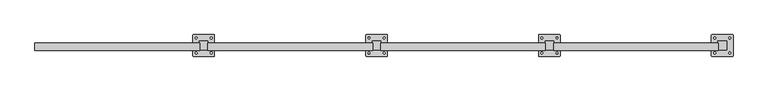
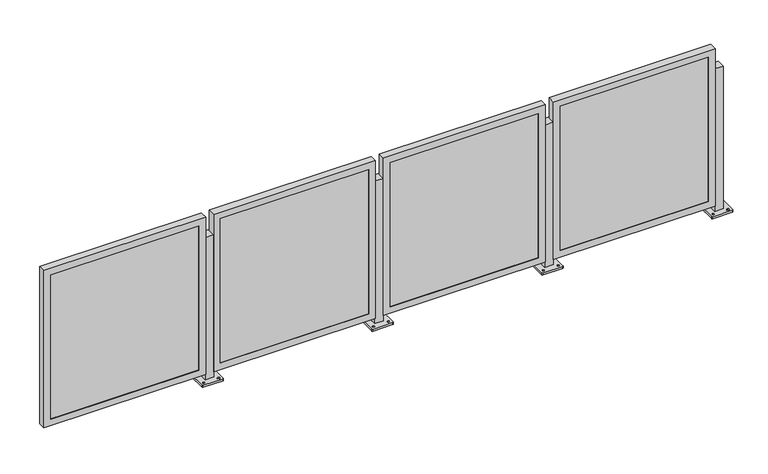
"""IFC4 building model written with IfcOpenShell, lengths in millimetres: railing geometry, Railing - Amico Architectural - Perforated Railing - Apex02."""

from ifc_helpers import new_model, si_unit, frame, origin, place, context, project, spatial, polyline, circle_curve, outline, extrude, faceted_brep, source, transform, mapped, element, save
from ifc_brep_helpers import plane_surface, cylinder_surface, revolved_surface, advanced_brep


def railing_ad05e1b3(model_context):
    return source(origin(), model_context, "Body", "SolidModel", [
        advanced_brep(
        [(-22921.3286619, -908.4679764, 914.4), (-22921.3286619, -959.2679764, 914.4), (-22870.5286619, -959.2679764, 914.4), (-22870.5286619, -908.4679764, 914.4), (-22959.428662, -994.1929354, 0.0), (-22959.428662, -873.5430174, 0.0), (-22956.2536339, -870.3679893, 0.0), (-22835.6036899, -870.3679893, 0.0), (-22832.4286617, -873.5430174, 0.0), (-22832.4286617, -994.1929354, 0.0), (-22835.6036899, -997.3679635, 0.0), (-22956.2536339, -997.3679635, 0.0), (-22940.3786494, -983.874231, 0.0), (-22940.3786494, -972.7617186, 0.0), (-22940.3786603, -894.9742267, 0.0), (-22940.3786603, -883.8617451, 0.0), (-22851.4786485, -983.8742295, 0.0), (-22851.4786485, -972.7617189, 0.0), (-22851.4786594, -894.9742251, 0.0), (-22851.4786594, -883.8617453, 0.0), (-22921.3286619, -908.4679764, 12.7), (-22921.3286619, -959.2679764, 12.7), (-22870.5286619, -959.2679764, 12.7), (-22870.5286619, -908.4679764, 12.7), (-22959.428662, -994.1929354, 12.7), (-22956.2536339, -997.3679635, 12.7), (-22835.6036899, -997.3679635, 12.7), (-22832.4286617, -994.1929354, 12.7), (-22832.4286617, -873.5430174, 12.7), (-22835.6036899, -870.3679893, 12.7), (-22956.2536339, -870.3679893, 12.7), (-22959.428662, -873.5430174, 12.7), (-22940.3786494, -983.874231, 12.7), (-22940.3786494, -972.7617186, 12.7), (-22940.3786603, -894.9742267, 12.7), (-22940.3786603, -883.8617451, 12.7), (-22851.4786485, -983.8742295, 12.7), (-22851.4786485, -972.7617189, 12.7), (-22851.4786594, -894.9742251, 12.7), (-22851.4786594, -883.8617453, 12.7)],
        [
            (0, 1),
            (1, 2),
            (2, 3),
            (3, 0),
            (4, 5),
            (5, 6, circle_curve(frame((-22956.2536339, -873.5430174, 0.0), z_axis=(0.0, 0.0, -1.0), x_axis=(0.0, 1.0, 0.0)), 3.1750282)),
            (6, 7),
            (7, 8, circle_curve(frame((-22835.6036899, -873.5430174, 0.0), z_axis=(0.0, 0.0, -1.0), x_axis=(0.0, 1.0, 0.0)), 3.1750282)),
            (8, 9),
            (9, 10, circle_curve(frame((-22835.6036899, -994.1929354, 0.0), z_axis=(0.0, 0.0, -1.0), x_axis=(0.0, 1.0, 0.0)), 3.1750282)),
            (10, 11),
            (11, 4, circle_curve(frame((-22956.2536339, -994.1929354, 0.0), z_axis=(0.0, 0.0, -1.0), x_axis=(0.0, 1.0, 0.0)), 3.1750282)),
            (12, 13, circle_curve(frame((-22940.3786494, -978.3179748, 0.0), z_axis=(0.0, 0.0, 1.0), x_axis=(0.0, 1.0, 0.0)), 5.5562562)),
            (13, 12, circle_curve(frame((-22940.3786494, -978.3179748, 0.0), z_axis=(0.0, 0.0, 1.0), x_axis=(0.0, 1.0, 0.0)), 5.5562562)),
            (14, 15, circle_curve(frame((-22940.3786603, -889.4179859, 0.0), z_axis=(0.0, 0.0, 1.0), x_axis=(0.0, 1.0, 0.0)), 5.5562408)),
            (15, 14, circle_curve(frame((-22940.3786603, -889.4179859, 0.0), z_axis=(0.0, 0.0, 1.0), x_axis=(0.0, 1.0, 0.0)), 5.5562408)),
            (16, 17, circle_curve(frame((-22851.4786485, -978.3179742, 0.0), z_axis=(0.0, 0.0, 1.0), x_axis=(0.0, 1.0, 0.0)), 5.5562553)),
            (17, 16, circle_curve(frame((-22851.4786485, -978.3179742, 0.0), z_axis=(0.0, 0.0, 1.0), x_axis=(0.0, 1.0, 0.0)), 5.5562553)),
            (18, 19, circle_curve(frame((-22851.4786594, -889.4179852, 0.0), z_axis=(0.0, 0.0, 1.0), x_axis=(0.0, 1.0, 0.0)), 5.5562399)),
            (19, 18, circle_curve(frame((-22851.4786594, -889.4179852, 0.0), z_axis=(0.0, 0.0, 1.0), x_axis=(0.0, 1.0, 0.0)), 5.5562399)),
            (0, 20),
            (20, 21),
            (21, 1),
            (21, 22),
            (22, 2),
            (22, 23),
            (23, 3),
            (23, 20),
            (24, 25, circle_curve(frame((-22956.2536339, -994.1929354, 12.7), z_axis=(0.0, 0.0, 1.0), x_axis=(0.0, 1.0, 0.0)), 3.1750282)),
            (25, 26),
            (26, 27, circle_curve(frame((-22835.6036899, -994.1929354, 12.7), z_axis=(0.0, 0.0, 1.0), x_axis=(0.0, 1.0, 0.0)), 3.1750282)),
            (27, 28),
            (28, 29, circle_curve(frame((-22835.6036899, -873.5430174, 12.7), z_axis=(0.0, 0.0, 1.0), x_axis=(0.0, 1.0, 0.0)), 3.1750282)),
            (29, 30),
            (30, 31, circle_curve(frame((-22956.2536339, -873.5430174, 12.7), z_axis=(0.0, 0.0, 1.0), x_axis=(0.0, 1.0, 0.0)), 3.1750282)),
            (31, 24),
            (32, 33, circle_curve(frame((-22940.3786494, -978.3179748, 12.7), z_axis=(0.0, 0.0, -1.0), x_axis=(0.0, 1.0, 0.0)), 5.5562562)),
            (33, 32, circle_curve(frame((-22940.3786494, -978.3179748, 12.7), z_axis=(0.0, 0.0, -1.0), x_axis=(0.0, 1.0, 0.0)), 5.5562562)),
            (34, 35, circle_curve(frame((-22940.3786603, -889.4179859, 12.7), z_axis=(0.0, 0.0, -1.0), x_axis=(0.0, 1.0, 0.0)), 5.5562408)),
            (35, 34, circle_curve(frame((-22940.3786603, -889.4179859, 12.7), z_axis=(0.0, 0.0, -1.0), x_axis=(0.0, 1.0, 0.0)), 5.5562408)),
            (36, 37, circle_curve(frame((-22851.4786485, -978.3179742, 12.7), z_axis=(0.0, 0.0, -1.0), x_axis=(0.0, 1.0, 0.0)), 5.5562553)),
            (37, 36, circle_curve(frame((-22851.4786485, -978.3179742, 12.7), z_axis=(0.0, 0.0, -1.0), x_axis=(0.0, 1.0, 0.0)), 5.5562553)),
            (38, 39, circle_curve(frame((-22851.4786594, -889.4179852, 12.7), z_axis=(0.0, 0.0, -1.0), x_axis=(0.0, 1.0, 0.0)), 5.5562399)),
            (39, 38, circle_curve(frame((-22851.4786594, -889.4179852, 12.7), z_axis=(0.0, 0.0, -1.0), x_axis=(0.0, 1.0, 0.0)), 5.5562399)),
            (24, 4),
            (11, 25),
            (10, 26),
            (9, 27),
            (8, 28),
            (7, 29),
            (6, 30),
            (5, 31),
            (32, 12),
            (13, 33),
            (34, 14),
            (15, 35),
            (36, 16),
            (17, 37),
            (38, 18),
            (19, 39),
        ],
        [
            plane_surface(frame((-22921.3286619, -959.2679764, 914.4), z_axis=(0.0, 0.0, 1.0), x_axis=(0.0, -1.0, 0.0))),
            plane_surface(frame((-22921.3286619, -959.2679764, 0.0), z_axis=(0.0, 0.0, -1.0), x_axis=(0.0, 1.0, 0.0))),
            plane_surface(frame((-22921.3286619, -908.4679764, 914.4), z_axis=(-1.0, 0.0, 0.0), x_axis=(0.0, 0.0, -1.0))),
            plane_surface(frame((-22921.3286619, -959.2679764, 914.4), z_axis=(0.0, -1.0, 0.0), x_axis=(0.0, 0.0, -1.0))),
            plane_surface(frame((-22870.5286619, -959.2679764, 914.4), z_axis=(1.0, 0.0, 0.0), x_axis=(0.0, 0.0, -1.0))),
            plane_surface(frame((-22870.5286619, -908.4679764, 914.4), z_axis=(0.0, 1.0, 0.0), x_axis=(0.0, 0.0, -1.0))),
            plane_surface(frame((-22956.2536339, -991.0179072, 12.7), z_axis=(0.0, 0.0, 1.0), x_axis=(-1.0, 0.0, 0.0))),
            cylinder_surface(frame((-22956.2536339, -994.1929354, 0.0), z_axis=(0.0, 0.0, 1.0), x_axis=(0.0, 1.0, 0.0)), 3.1750282),
            plane_surface(frame((-22956.2536339, -997.3679635, 12.7), z_axis=(1.1945386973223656e-12, -1.0, 0.0), x_axis=(0.0, 0.0, -1.0))),
            cylinder_surface(frame((-22835.6036899, -994.1929354, 0.0), z_axis=(0.0, 0.0, 1.0), x_axis=(0.0, 1.0, 0.0)), 3.1750282),
            plane_surface(frame((-22832.4286617, -994.1929354, 12.7), z_axis=(1.0, 0.0, 0.0), x_axis=(0.0, 0.0, -1.0))),
            cylinder_surface(frame((-22835.6036899, -873.5430174, 0.0), z_axis=(0.0, 0.0, 1.0), x_axis=(0.0, 1.0, 0.0)), 3.1750282),
            plane_surface(frame((-22835.6036899, -870.3679893, 12.7), z_axis=(-1.1946088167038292e-12, 1.0, 0.0), x_axis=(0.0, 0.0, -1.0))),
            cylinder_surface(frame((-22956.2536339, -873.5430174, 0.0), z_axis=(0.0, 0.0, 1.0), x_axis=(0.0, 1.0, 0.0)), 3.1750282),
            plane_surface(frame((-22959.428662, -873.5430174, 12.7), z_axis=(-1.0, 0.0, 0.0), x_axis=(0.0, 0.0, -1.0))),
            revolved_surface(polyline([(-22940.3786494, -972.7617186, 0.0), (-22940.3786494, -972.7617186, 12.7)]), (-22940.3786494, -978.3179748, 0.0), (0.0, 0.0, -1.0)),
            revolved_surface(polyline([(-22940.3786603, -883.8617451, 0.0), (-22940.3786603, -883.8617451, 12.7)]), (-22940.3786603, -889.4179859, 0.0), (0.0, 0.0, -1.0)),
            revolved_surface(polyline([(-22851.4786485, -972.7617189, 0.0), (-22851.4786485, -972.7617189, 12.7)]), (-22851.4786485, -978.3179742, 0.0), (0.0, 0.0, -1.0)),
            revolved_surface(polyline([(-22851.4786594, -883.8617452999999, 0.0), (-22851.4786594, -883.8617452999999, 12.7)]), (-22851.4786594, -889.4179852, 0.0), (0.0, 0.0, -1.0)),
        ],
        [
            (0, [[1, 2, 3, 4]]),
            (1, [[5, 6, 7, 8, 9, 10, 11, 12], [13, 14], [15, 16], [17, 18], [19, 20]]),
            (2, [[-1, 21, 22, 23]]),
            (3, [[-2, -23, 24, 25]]),
            (4, [[-3, -25, 26, 27]]),
            (5, [[-4, -27, 28, -21]]),
            (6, [[29, 30, 31, 32, 33, 34, 35, 36], [-22, -28, -26, -24], [37, 38], [39, 40], [41, 42], [43, 44]]),
            (7, [[-29, 45, -12, 46]]),
            (8, [[-30, -46, -11, 47]]),
            (9, [[-31, -47, -10, 48]]),
            (10, [[-32, -48, -9, 49]]),
            (11, [[-33, -49, -8, 50]]),
            (12, [[-34, -50, -7, 51]]),
            (13, [[-35, -51, -6, 52]]),
            (14, [[-36, -52, -5, -45]]),
            (15, [[-37, 53, -14, 54]]),
            (15, [[-38, -54, -13, -53]]),
            (16, [[-39, 55, -16, 56]]),
            (16, [[-40, -56, -15, -55]]),
            (17, [[-41, 57, -18, 58]]),
            (17, [[-42, -58, -17, -57]]),
            (18, [[-43, 59, -20, 60]]),
            (18, [[-44, -60, -19, -59]]),
        ],
    ),
        faceted_brep([(-23887.7331153, -962.0111764, 47.625), (-22919.3581153, -962.0111764, 47.625), (-22919.3581153, -962.0111764, 1044.575), (-23887.7331153, -962.0111764, 1044.575), (-23846.4581153, -962.0111764, 1003.3), (-22960.6331153, -962.0111764, 1003.3), (-22960.6331153, -962.0111764, 88.9), (-23846.4581153, -962.0111764, 88.9), (-23846.4581153, -959.2679764, 1003.3), (-23846.4581153, -959.2679764, 88.9), (-23887.7331153, -918.1378799, 1044.575), (-23887.7331153, -918.1378799, 47.625), (-23884.5581153, -918.1378799, 1041.4), (-23884.5581153, -959.2679764, 1041.4), (-23884.5581153, -959.2679764, 50.8), (-23884.5581153, -918.1378799, 50.8), (-22960.6331153, -959.2679764, 88.9), (-22919.3581153, -918.1378799, 47.625), (-22922.5331153, -959.2679764, 50.8), (-22922.5331153, -918.1378799, 50.8), (-22960.6331153, -959.2679764, 1003.3), (-22919.3581153, -918.1378799, 1044.575), (-22922.5331153, -959.2679764, 1041.4), (-22922.5331153, -918.1378799, 1041.4)], [[[0, 1, 2, 3], [4, 5, 6, 7]], [[8, 4, 7, 9]], [[3, 10, 11, 0]], [[12, 13, 14, 15]], [[9, 7, 6, 16]], [[0, 11, 17, 1]], [[15, 14, 18, 19]], [[16, 6, 5, 20]], [[1, 17, 21, 2]], [[19, 18, 22, 23]], [[20, 5, 4, 8]], [[10, 21, 17, 11], [15, 19, 23, 12]], [[2, 21, 10, 3]], [[13, 22, 18, 14], [9, 16, 20, 8]], [[23, 22, 13, 12]]]),
        extrude(outline(polyline([(-23884.5581153, -949.7429764), (-22922.5331153, -949.7429764), (-22922.5331153, -959.2679764), (-23884.5581153, -959.2679764), (-23884.5581153, -949.7429764)])), frame((0.0, 0.0, 50.8), z_axis=(0.0, 0.0, 1.0), x_axis=(1.0, 0.0, 0.0)), (0.0, 0.0, 1.0), 990.6),
        advanced_brep(
        [(-23937.3286619, -908.4679764, 914.4), (-23937.3286619, -959.2679764, 914.4), (-23886.5286619, -959.2679764, 914.4), (-23886.5286619, -908.4679764, 914.4), (-23975.428662, -994.1929354, 0.0), (-23975.428662, -873.5430174, 0.0), (-23972.2536339, -870.3679893, 0.0), (-23851.6036899, -870.3679893, 0.0), (-23848.4286617, -873.5430174, 0.0), (-23848.4286617, -994.1929354, 0.0), (-23851.6036899, -997.3679635, 0.0), (-23972.2536339, -997.3679635, 0.0), (-23956.3786494, -983.874231, 0.0), (-23956.3786494, -972.7617186, 0.0), (-23956.3786603, -894.9742267, 0.0), (-23956.3786603, -883.8617451, 0.0), (-23867.4786485, -983.8742295, 0.0), (-23867.4786485, -972.7617189, 0.0), (-23867.4786594, -894.9742251, 0.0), (-23867.4786594, -883.8617453, 0.0), (-23937.3286619, -908.4679764, 12.7), (-23937.3286619, -959.2679764, 12.7), (-23886.5286619, -959.2679764, 12.7), (-23886.5286619, -908.4679764, 12.7), (-23975.428662, -994.1929354, 12.7), (-23972.2536339, -997.3679635, 12.7), (-23851.6036899, -997.3679635, 12.7), (-23848.4286617, -994.1929354, 12.7), (-23848.4286617, -873.5430174, 12.7), (-23851.6036899, -870.3679893, 12.7), (-23972.2536339, -870.3679893, 12.7), (-23975.428662, -873.5430174, 12.7), (-23956.3786494, -983.874231, 12.7), (-23956.3786494, -972.7617186, 12.7), (-23956.3786603, -894.9742267, 12.7), (-23956.3786603, -883.8617451, 12.7), (-23867.4786485, -983.8742295, 12.7), (-23867.4786485, -972.7617189, 12.7), (-23867.4786594, -894.9742251, 12.7), (-23867.4786594, -883.8617453, 12.7)],
        [
            (0, 1),
            (1, 2),
            (2, 3),
            (3, 0),
            (4, 5),
            (5, 6, circle_curve(frame((-23972.2536339, -873.5430174, 0.0), z_axis=(0.0, 0.0, -1.0), x_axis=(0.0, 1.0, 0.0)), 3.1750282)),
            (6, 7),
            (7, 8, circle_curve(frame((-23851.6036899, -873.5430174, 0.0), z_axis=(0.0, 0.0, -1.0), x_axis=(0.0, 1.0, 0.0)), 3.1750282)),
            (8, 9),
            (9, 10, circle_curve(frame((-23851.6036899, -994.1929354, 0.0), z_axis=(0.0, 0.0, -1.0), x_axis=(0.0, 1.0, 0.0)), 3.1750282)),
            (10, 11),
            (11, 4, circle_curve(frame((-23972.2536339, -994.1929354, 0.0), z_axis=(0.0, 0.0, -1.0), x_axis=(0.0, 1.0, 0.0)), 3.1750282)),
            (12, 13, circle_curve(frame((-23956.3786494, -978.3179748, 0.0), z_axis=(0.0, 0.0, 1.0), x_axis=(0.0, 1.0, 0.0)), 5.5562562)),
            (13, 12, circle_curve(frame((-23956.3786494, -978.3179748, 0.0), z_axis=(0.0, 0.0, 1.0), x_axis=(0.0, 1.0, 0.0)), 5.5562562)),
            (14, 15, circle_curve(frame((-23956.3786603, -889.4179859, 0.0), z_axis=(0.0, 0.0, 1.0), x_axis=(0.0, 1.0, 0.0)), 5.5562408)),
            (15, 14, circle_curve(frame((-23956.3786603, -889.4179859, 0.0), z_axis=(0.0, 0.0, 1.0), x_axis=(0.0, 1.0, 0.0)), 5.5562408)),
            (16, 17, circle_curve(frame((-23867.4786485, -978.3179742, 0.0), z_axis=(0.0, 0.0, 1.0), x_axis=(0.0, 1.0, 0.0)), 5.5562553)),
            (17, 16, circle_curve(frame((-23867.4786485, -978.3179742, 0.0), z_axis=(0.0, 0.0, 1.0), x_axis=(0.0, 1.0, 0.0)), 5.5562553)),
            (18, 19, circle_curve(frame((-23867.4786594, -889.4179852, 0.0), z_axis=(0.0, 0.0, 1.0), x_axis=(0.0, 1.0, 0.0)), 5.5562399)),
            (19, 18, circle_curve(frame((-23867.4786594, -889.4179852, 0.0), z_axis=(0.0, 0.0, 1.0), x_axis=(0.0, 1.0, 0.0)), 5.5562399)),
            (0, 20),
            (20, 21),
            (21, 1),
            (21, 22),
            (22, 2),
            (22, 23),
            (23, 3),
            (23, 20),
            (24, 25, circle_curve(frame((-23972.2536339, -994.1929354, 12.7), z_axis=(0.0, 0.0, 1.0), x_axis=(0.0, 1.0, 0.0)), 3.1750282)),
            (25, 26),
            (26, 27, circle_curve(frame((-23851.6036899, -994.1929354, 12.7), z_axis=(0.0, 0.0, 1.0), x_axis=(0.0, 1.0, 0.0)), 3.1750282)),
            (27, 28),
            (28, 29, circle_curve(frame((-23851.6036899, -873.5430174, 12.7), z_axis=(0.0, 0.0, 1.0), x_axis=(0.0, 1.0, 0.0)), 3.1750282)),
            (29, 30),
            (30, 31, circle_curve(frame((-23972.2536339, -873.5430174, 12.7), z_axis=(0.0, 0.0, 1.0), x_axis=(0.0, 1.0, 0.0)), 3.1750282)),
            (31, 24),
            (32, 33, circle_curve(frame((-23956.3786494, -978.3179748, 12.7), z_axis=(0.0, 0.0, -1.0), x_axis=(0.0, 1.0, 0.0)), 5.5562562)),
            (33, 32, circle_curve(frame((-23956.3786494, -978.3179748, 12.7), z_axis=(0.0, 0.0, -1.0), x_axis=(0.0, 1.0, 0.0)), 5.5562562)),
            (34, 35, circle_curve(frame((-23956.3786603, -889.4179859, 12.7), z_axis=(0.0, 0.0, -1.0), x_axis=(0.0, 1.0, 0.0)), 5.5562408)),
            (35, 34, circle_curve(frame((-23956.3786603, -889.4179859, 12.7), z_axis=(0.0, 0.0, -1.0), x_axis=(0.0, 1.0, 0.0)), 5.5562408)),
            (36, 37, circle_curve(frame((-23867.4786485, -978.3179742, 12.7), z_axis=(0.0, 0.0, -1.0), x_axis=(0.0, 1.0, 0.0)), 5.5562553)),
            (37, 36, circle_curve(frame((-23867.4786485, -978.3179742, 12.7), z_axis=(0.0, 0.0, -1.0), x_axis=(0.0, 1.0, 0.0)), 5.5562553)),
            (38, 39, circle_curve(frame((-23867.4786594, -889.4179852, 12.7), z_axis=(0.0, 0.0, -1.0), x_axis=(0.0, 1.0, 0.0)), 5.5562399)),
            (39, 38, circle_curve(frame((-23867.4786594, -889.4179852, 12.7), z_axis=(0.0, 0.0, -1.0), x_axis=(0.0, 1.0, 0.0)), 5.5562399)),
            (24, 4),
            (11, 25),
            (10, 26),
            (9, 27),
            (8, 28),
            (7, 29),
            (6, 30),
            (5, 31),
            (32, 12),
            (13, 33),
            (34, 14),
            (15, 35),
            (36, 16),
            (17, 37),
            (38, 18),
            (19, 39),
        ],
        [
            plane_surface(frame((-23937.3286619, -959.2679764, 914.4), z_axis=(0.0, 0.0, 1.0), x_axis=(0.0, -1.0, 0.0))),
            plane_surface(frame((-23937.3286619, -959.2679764, 0.0), z_axis=(0.0, 0.0, -1.0), x_axis=(0.0, 1.0, 0.0))),
            plane_surface(frame((-23937.3286619, -908.4679764, 914.4), z_axis=(-1.0, 0.0, 0.0), x_axis=(0.0, 0.0, -1.0))),
            plane_surface(frame((-23937.3286619, -959.2679764, 914.4), z_axis=(0.0, -1.0, 0.0), x_axis=(0.0, 0.0, -1.0))),
            plane_surface(frame((-23886.5286619, -959.2679764, 914.4), z_axis=(1.0, 0.0, 0.0), x_axis=(0.0, 0.0, -1.0))),
            plane_surface(frame((-23886.5286619, -908.4679764, 914.4), z_axis=(0.0, 1.0, 0.0), x_axis=(0.0, 0.0, -1.0))),
            plane_surface(frame((-23972.2536339, -991.0179072, 12.7), z_axis=(0.0, 0.0, 1.0), x_axis=(-1.0, 0.0, 0.0))),
            cylinder_surface(frame((-23972.2536339, -994.1929354, 0.0), z_axis=(0.0, 0.0, 1.0), x_axis=(0.0, 1.0, 0.0)), 3.1750282),
            plane_surface(frame((-23972.2536339, -997.3679635, 12.7), z_axis=(1.1945386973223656e-12, -1.0, 0.0), x_axis=(0.0, 0.0, -1.0))),
            cylinder_surface(frame((-23851.6036899, -994.1929354, 0.0), z_axis=(0.0, 0.0, 1.0), x_axis=(0.0, 1.0, 0.0)), 3.1750282),
            plane_surface(frame((-23848.4286617, -994.1929354, 12.7), z_axis=(1.0, 0.0, 0.0), x_axis=(0.0, 0.0, -1.0))),
            cylinder_surface(frame((-23851.6036899, -873.5430174, 0.0), z_axis=(0.0, 0.0, 1.0), x_axis=(0.0, 1.0, 0.0)), 3.1750282),
            plane_surface(frame((-23851.6036899, -870.3679893, 12.7), z_axis=(-1.1946088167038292e-12, 1.0, 0.0), x_axis=(0.0, 0.0, -1.0))),
            cylinder_surface(frame((-23972.2536339, -873.5430174, 0.0), z_axis=(0.0, 0.0, 1.0), x_axis=(0.0, 1.0, 0.0)), 3.1750282),
            plane_surface(frame((-23975.428662, -873.5430174, 12.7), z_axis=(-1.0, 0.0, 0.0), x_axis=(0.0, 0.0, -1.0))),
            revolved_surface(polyline([(-23956.3786494, -972.7617186, 0.0), (-23956.3786494, -972.7617186, 12.7)]), (-23956.3786494, -978.3179748, 0.0), (0.0, 0.0, -1.0)),
            revolved_surface(polyline([(-23956.3786603, -883.8617451, 0.0), (-23956.3786603, -883.8617451, 12.7)]), (-23956.3786603, -889.4179859, 0.0), (0.0, 0.0, -1.0)),
            revolved_surface(polyline([(-23867.4786485, -972.7617189, 0.0), (-23867.4786485, -972.7617189, 12.7)]), (-23867.4786485, -978.3179742, 0.0), (0.0, 0.0, -1.0)),
            revolved_surface(polyline([(-23867.4786594, -883.8617452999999, 0.0), (-23867.4786594, -883.8617452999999, 12.7)]), (-23867.4786594, -889.4179852, 0.0), (0.0, 0.0, -1.0)),
        ],
        [
            (0, [[1, 2, 3, 4]]),
            (1, [[5, 6, 7, 8, 9, 10, 11, 12], [13, 14], [15, 16], [17, 18], [19, 20]]),
            (2, [[-1, 21, 22, 23]]),
            (3, [[-2, -23, 24, 25]]),
            (4, [[-3, -25, 26, 27]]),
            (5, [[-4, -27, 28, -21]]),
            (6, [[29, 30, 31, 32, 33, 34, 35, 36], [-22, -28, -26, -24], [37, 38], [39, 40], [41, 42], [43, 44]]),
            (7, [[-29, 45, -12, 46]]),
            (8, [[-30, -46, -11, 47]]),
            (9, [[-31, -47, -10, 48]]),
            (10, [[-32, -48, -9, 49]]),
            (11, [[-33, -49, -8, 50]]),
            (12, [[-34, -50, -7, 51]]),
            (13, [[-35, -51, -6, 52]]),
            (14, [[-36, -52, -5, -45]]),
            (15, [[-37, 53, -14, 54]]),
            (15, [[-38, -54, -13, -53]]),
            (16, [[-39, 55, -16, 56]]),
            (16, [[-40, -56, -15, -55]]),
            (17, [[-41, 57, -18, 58]]),
            (17, [[-42, -58, -17, -57]]),
            (18, [[-43, 59, -20, 60]]),
            (18, [[-44, -60, -19, -59]]),
        ],
    ),
        faceted_brep([(-24903.7331153, -962.0111764, 47.625), (-23935.3581153, -962.0111764, 47.625), (-23935.3581153, -962.0111764, 1044.575), (-24903.7331153, -962.0111764, 1044.575), (-24862.4581153, -962.0111764, 1003.3), (-23976.6331153, -962.0111764, 1003.3), (-23976.6331153, -962.0111764, 88.9), (-24862.4581153, -962.0111764, 88.9), (-24862.4581153, -959.2679764, 1003.3), (-24862.4581153, -959.2679764, 88.9), (-24903.7331153, -918.1378799, 1044.575), (-24903.7331153, -918.1378799, 47.625), (-24900.5581153, -918.1378799, 1041.4), (-24900.5581153, -959.2679764, 1041.4), (-24900.5581153, -959.2679764, 50.8), (-24900.5581153, -918.1378799, 50.8), (-23976.6331153, -959.2679764, 88.9), (-23935.3581153, -918.1378799, 47.625), (-23938.5331153, -959.2679764, 50.8), (-23938.5331153, -918.1378799, 50.8), (-23976.6331153, -959.2679764, 1003.3), (-23935.3581153, -918.1378799, 1044.575), (-23938.5331153, -959.2679764, 1041.4), (-23938.5331153, -918.1378799, 1041.4)], [[[0, 1, 2, 3], [4, 5, 6, 7]], [[8, 4, 7, 9]], [[3, 10, 11, 0]], [[12, 13, 14, 15]], [[9, 7, 6, 16]], [[0, 11, 17, 1]], [[15, 14, 18, 19]], [[16, 6, 5, 20]], [[1, 17, 21, 2]], [[19, 18, 22, 23]], [[20, 5, 4, 8]], [[10, 21, 17, 11], [15, 19, 23, 12]], [[2, 21, 10, 3]], [[13, 22, 18, 14], [9, 16, 20, 8]], [[23, 22, 13, 12]]]),
        extrude(outline(polyline([(-24900.5581153, -949.7429764), (-23938.5331153, -949.7429764), (-23938.5331153, -959.2679764), (-24900.5581153, -959.2679764), (-24900.5581153, -949.7429764)])), frame((0.0, 0.0, 50.8), z_axis=(0.0, 0.0, 1.0), x_axis=(1.0, 0.0, 0.0)), (0.0, 0.0, 1.0), 990.6),
        advanced_brep(
        [(-24953.3286619, -908.4679764, 914.4), (-24953.3286619, -959.2679764, 914.4), (-24902.5286619, -959.2679764, 914.4), (-24902.5286619, -908.4679764, 914.4), (-24991.428662, -994.1929354, 0.0), (-24991.428662, -873.5430174, 0.0), (-24988.2536339, -870.3679893, 0.0), (-24867.6036899, -870.3679893, 0.0), (-24864.4286617, -873.5430174, 0.0), (-24864.4286617, -994.1929354, 0.0), (-24867.6036899, -997.3679635, 0.0), (-24988.2536339, -997.3679635, 0.0), (-24972.3786494, -983.874231, 0.0), (-24972.3786494, -972.7617186, 0.0), (-24972.3786603, -894.9742267, 0.0), (-24972.3786603, -883.8617451, 0.0), (-24883.4786485, -983.8742295, 0.0), (-24883.4786485, -972.7617189, 0.0), (-24883.4786594, -894.9742251, 0.0), (-24883.4786594, -883.8617453, 0.0), (-24953.3286619, -908.4679764, 12.7), (-24953.3286619, -959.2679764, 12.7), (-24902.5286619, -959.2679764, 12.7), (-24902.5286619, -908.4679764, 12.7), (-24991.428662, -994.1929354, 12.7), (-24988.2536339, -997.3679635, 12.7), (-24867.6036899, -997.3679635, 12.7), (-24864.4286617, -994.1929354, 12.7), (-24864.4286617, -873.5430174, 12.7), (-24867.6036899, -870.3679893, 12.7), (-24988.2536339, -870.3679893, 12.7), (-24991.428662, -873.5430174, 12.7), (-24972.3786494, -983.874231, 12.7), (-24972.3786494, -972.7617186, 12.7), (-24972.3786603, -894.9742267, 12.7), (-24972.3786603, -883.8617451, 12.7), (-24883.4786485, -983.8742295, 12.7), (-24883.4786485, -972.7617189, 12.7), (-24883.4786594, -894.9742251, 12.7), (-24883.4786594, -883.8617453, 12.7)],
        [
            (0, 1),
            (1, 2),
            (2, 3),
            (3, 0),
            (4, 5),
            (5, 6, circle_curve(frame((-24988.2536339, -873.5430174, 0.0), z_axis=(0.0, 0.0, -1.0), x_axis=(0.0, 1.0, 0.0)), 3.1750282)),
            (6, 7),
            (7, 8, circle_curve(frame((-24867.6036899, -873.5430174, 0.0), z_axis=(0.0, 0.0, -1.0), x_axis=(0.0, 1.0, 0.0)), 3.1750282)),
            (8, 9),
            (9, 10, circle_curve(frame((-24867.6036899, -994.1929354, 0.0), z_axis=(0.0, 0.0, -1.0), x_axis=(0.0, 1.0, 0.0)), 3.1750282)),
            (10, 11),
            (11, 4, circle_curve(frame((-24988.2536339, -994.1929354, 0.0), z_axis=(0.0, 0.0, -1.0), x_axis=(0.0, 1.0, 0.0)), 3.1750282)),
            (12, 13, circle_curve(frame((-24972.3786494, -978.3179748, 0.0), z_axis=(0.0, 0.0, 1.0), x_axis=(0.0, 1.0, 0.0)), 5.5562562)),
            (13, 12, circle_curve(frame((-24972.3786494, -978.3179748, 0.0), z_axis=(0.0, 0.0, 1.0), x_axis=(0.0, 1.0, 0.0)), 5.5562562)),
            (14, 15, circle_curve(frame((-24972.3786603, -889.4179859, 0.0), z_axis=(0.0, 0.0, 1.0), x_axis=(0.0, 1.0, 0.0)), 5.5562408)),
            (15, 14, circle_curve(frame((-24972.3786603, -889.4179859, 0.0), z_axis=(0.0, 0.0, 1.0), x_axis=(0.0, 1.0, 0.0)), 5.5562408)),
            (16, 17, circle_curve(frame((-24883.4786485, -978.3179742, 0.0), z_axis=(0.0, 0.0, 1.0), x_axis=(0.0, 1.0, 0.0)), 5.5562553)),
            (17, 16, circle_curve(frame((-24883.4786485, -978.3179742, 0.0), z_axis=(0.0, 0.0, 1.0), x_axis=(0.0, 1.0, 0.0)), 5.5562553)),
            (18, 19, circle_curve(frame((-24883.4786594, -889.4179852, 0.0), z_axis=(0.0, 0.0, 1.0), x_axis=(0.0, 1.0, 0.0)), 5.5562399)),
            (19, 18, circle_curve(frame((-24883.4786594, -889.4179852, 0.0), z_axis=(0.0, 0.0, 1.0), x_axis=(0.0, 1.0, 0.0)), 5.5562399)),
            (0, 20),
            (20, 21),
            (21, 1),
            (21, 22),
            (22, 2),
            (22, 23),
            (23, 3),
            (23, 20),
            (24, 25, circle_curve(frame((-24988.2536339, -994.1929354, 12.7), z_axis=(0.0, 0.0, 1.0), x_axis=(0.0, 1.0, 0.0)), 3.1750282)),
            (25, 26),
            (26, 27, circle_curve(frame((-24867.6036899, -994.1929354, 12.7), z_axis=(0.0, 0.0, 1.0), x_axis=(0.0, 1.0, 0.0)), 3.1750282)),
            (27, 28),
            (28, 29, circle_curve(frame((-24867.6036899, -873.5430174, 12.7), z_axis=(0.0, 0.0, 1.0), x_axis=(0.0, 1.0, 0.0)), 3.1750282)),
            (29, 30),
            (30, 31, circle_curve(frame((-24988.2536339, -873.5430174, 12.7), z_axis=(0.0, 0.0, 1.0), x_axis=(0.0, 1.0, 0.0)), 3.1750282)),
            (31, 24),
            (32, 33, circle_curve(frame((-24972.3786494, -978.3179748, 12.7), z_axis=(0.0, 0.0, -1.0), x_axis=(0.0, 1.0, 0.0)), 5.5562562)),
            (33, 32, circle_curve(frame((-24972.3786494, -978.3179748, 12.7), z_axis=(0.0, 0.0, -1.0), x_axis=(0.0, 1.0, 0.0)), 5.5562562)),
            (34, 35, circle_curve(frame((-24972.3786603, -889.4179859, 12.7), z_axis=(0.0, 0.0, -1.0), x_axis=(0.0, 1.0, 0.0)), 5.5562408)),
            (35, 34, circle_curve(frame((-24972.3786603, -889.4179859, 12.7), z_axis=(0.0, 0.0, -1.0), x_axis=(0.0, 1.0, 0.0)), 5.5562408)),
            (36, 37, circle_curve(frame((-24883.4786485, -978.3179742, 12.7), z_axis=(0.0, 0.0, -1.0), x_axis=(0.0, 1.0, 0.0)), 5.5562553)),
            (37, 36, circle_curve(frame((-24883.4786485, -978.3179742, 12.7), z_axis=(0.0, 0.0, -1.0), x_axis=(0.0, 1.0, 0.0)), 5.5562553)),
            (38, 39, circle_curve(frame((-24883.4786594, -889.4179852, 12.7), z_axis=(0.0, 0.0, -1.0), x_axis=(0.0, 1.0, 0.0)), 5.5562399)),
            (39, 38, circle_curve(frame((-24883.4786594, -889.4179852, 12.7), z_axis=(0.0, 0.0, -1.0), x_axis=(0.0, 1.0, 0.0)), 5.5562399)),
            (24, 4),
            (11, 25),
            (10, 26),
            (9, 27),
            (8, 28),
            (7, 29),
            (6, 30),
            (5, 31),
            (32, 12),
            (13, 33),
            (34, 14),
            (15, 35),
            (36, 16),
            (17, 37),
            (38, 18),
            (19, 39),
        ],
        [
            plane_surface(frame((-24953.3286619, -959.2679764, 914.4), z_axis=(0.0, 0.0, 1.0), x_axis=(0.0, -1.0, 0.0))),
            plane_surface(frame((-24953.3286619, -959.2679764, 0.0), z_axis=(0.0, 0.0, -1.0), x_axis=(0.0, 1.0, 0.0))),
            plane_surface(frame((-24953.3286619, -908.4679764, 914.4), z_axis=(-1.0, 0.0, 0.0), x_axis=(0.0, 0.0, -1.0))),
            plane_surface(frame((-24953.3286619, -959.2679764, 914.4), z_axis=(0.0, -1.0, 0.0), x_axis=(0.0, 0.0, -1.0))),
            plane_surface(frame((-24902.5286619, -959.2679764, 914.4), z_axis=(1.0, 0.0, 0.0), x_axis=(0.0, 0.0, -1.0))),
            plane_surface(frame((-24902.5286619, -908.4679764, 914.4), z_axis=(0.0, 1.0, 0.0), x_axis=(0.0, 0.0, -1.0))),
            plane_surface(frame((-24988.2536339, -991.0179072, 12.7), z_axis=(0.0, 0.0, 1.0), x_axis=(-1.0, 0.0, 0.0))),
            cylinder_surface(frame((-24988.2536339, -994.1929354, 0.0), z_axis=(0.0, 0.0, 1.0), x_axis=(0.0, 1.0, 0.0)), 3.1750282),
            plane_surface(frame((-24988.2536339, -997.3679635, 12.7), z_axis=(1.1945386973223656e-12, -1.0, 0.0), x_axis=(0.0, 0.0, -1.0))),
            cylinder_surface(frame((-24867.6036899, -994.1929354, 0.0), z_axis=(0.0, 0.0, 1.0), x_axis=(0.0, 1.0, 0.0)), 3.1750282),
            plane_surface(frame((-24864.4286617, -994.1929354, 12.7), z_axis=(1.0, 0.0, 0.0), x_axis=(0.0, 0.0, -1.0))),
            cylinder_surface(frame((-24867.6036899, -873.5430174, 0.0), z_axis=(0.0, 0.0, 1.0), x_axis=(0.0, 1.0, 0.0)), 3.1750282),
            plane_surface(frame((-24867.6036899, -870.3679893, 12.7), z_axis=(-1.1946088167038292e-12, 1.0, 0.0), x_axis=(0.0, 0.0, -1.0))),
            cylinder_surface(frame((-24988.2536339, -873.5430174, 0.0), z_axis=(0.0, 0.0, 1.0), x_axis=(0.0, 1.0, 0.0)), 3.1750282),
            plane_surface(frame((-24991.428662, -873.5430174, 12.7), z_axis=(-1.0, 0.0, 0.0), x_axis=(0.0, 0.0, -1.0))),
            revolved_surface(polyline([(-24972.3786494, -972.7617186, 0.0), (-24972.3786494, -972.7617186, 12.7)]), (-24972.3786494, -978.3179748, 0.0), (0.0, 0.0, -1.0)),
            revolved_surface(polyline([(-24972.3786603, -883.8617451, 0.0), (-24972.3786603, -883.8617451, 12.7)]), (-24972.3786603, -889.4179859, 0.0), (0.0, 0.0, -1.0)),
            revolved_surface(polyline([(-24883.4786485, -972.7617189, 0.0), (-24883.4786485, -972.7617189, 12.7)]), (-24883.4786485, -978.3179742, 0.0), (0.0, 0.0, -1.0)),
            revolved_surface(polyline([(-24883.4786594, -883.8617452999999, 0.0), (-24883.4786594, -883.8617452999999, 12.7)]), (-24883.4786594, -889.4179852, 0.0), (0.0, 0.0, -1.0)),
        ],
        [
            (0, [[1, 2, 3, 4]]),
            (1, [[5, 6, 7, 8, 9, 10, 11, 12], [13, 14], [15, 16], [17, 18], [19, 20]]),
            (2, [[-1, 21, 22, 23]]),
            (3, [[-2, -23, 24, 25]]),
            (4, [[-3, -25, 26, 27]]),
            (5, [[-4, -27, 28, -21]]),
            (6, [[29, 30, 31, 32, 33, 34, 35, 36], [-22, -28, -26, -24], [37, 38], [39, 40], [41, 42], [43, 44]]),
            (7, [[-29, 45, -12, 46]]),
            (8, [[-30, -46, -11, 47]]),
            (9, [[-31, -47, -10, 48]]),
            (10, [[-32, -48, -9, 49]]),
            (11, [[-33, -49, -8, 50]]),
            (12, [[-34, -50, -7, 51]]),
            (13, [[-35, -51, -6, 52]]),
            (14, [[-36, -52, -5, -45]]),
            (15, [[-37, 53, -14, 54]]),
            (15, [[-38, -54, -13, -53]]),
            (16, [[-39, 55, -16, 56]]),
            (16, [[-40, -56, -15, -55]]),
            (17, [[-41, 57, -18, 58]]),
            (17, [[-42, -58, -17, -57]]),
            (18, [[-43, 59, -20, 60]]),
            (18, [[-44, -60, -19, -59]]),
        ],
    ),
        faceted_brep([(-25919.7331153, -962.0111764, 47.625), (-24951.3581153, -962.0111764, 47.625), (-24951.3581153, -962.0111764, 1044.575), (-25919.7331153, -962.0111764, 1044.575), (-25878.4581153, -962.0111764, 1003.3), (-24992.6331153, -962.0111764, 1003.3), (-24992.6331153, -962.0111764, 88.9), (-25878.4581153, -962.0111764, 88.9), (-25878.4581153, -959.2679764, 1003.3), (-25878.4581153, -959.2679764, 88.9), (-25919.7331153, -918.1378799, 1044.575), (-25919.7331153, -918.1378799, 47.625), (-25916.5581153, -918.1378799, 1041.4), (-25916.5581153, -959.2679764, 1041.4), (-25916.5581153, -959.2679764, 50.8), (-25916.5581153, -918.1378799, 50.8), (-24992.6331153, -959.2679764, 88.9), (-24951.3581153, -918.1378799, 47.625), (-24954.5331153, -959.2679764, 50.8), (-24954.5331153, -918.1378799, 50.8), (-24992.6331153, -959.2679764, 1003.3), (-24951.3581153, -918.1378799, 1044.575), (-24954.5331153, -959.2679764, 1041.4), (-24954.5331153, -918.1378799, 1041.4)], [[[0, 1, 2, 3], [4, 5, 6, 7]], [[8, 4, 7, 9]], [[3, 10, 11, 0]], [[12, 13, 14, 15]], [[9, 7, 6, 16]], [[0, 11, 17, 1]], [[15, 14, 18, 19]], [[16, 6, 5, 20]], [[1, 17, 21, 2]], [[19, 18, 22, 23]], [[20, 5, 4, 8]], [[10, 21, 17, 11], [15, 19, 23, 12]], [[2, 21, 10, 3]], [[13, 22, 18, 14], [9, 16, 20, 8]], [[23, 22, 13, 12]]]),
        extrude(outline(polyline([(-25916.5581153, -949.7429764), (-24954.5331153, -949.7429764), (-24954.5331153, -959.2679764), (-25916.5581153, -959.2679764), (-25916.5581153, -949.7429764)])), frame((0.0, 0.0, 50.8), z_axis=(0.0, 0.0, 1.0), x_axis=(1.0, 0.0, 0.0)), (0.0, 0.0, 1.0), 990.6),
        advanced_brep(
        [(-25969.3286619, -908.4679764, 914.4), (-25969.3286619, -959.2679764, 914.4), (-25918.5286619, -959.2679764, 914.4), (-25918.5286619, -908.4679764, 914.4), (-26007.428662, -994.1929354, 0.0), (-26007.428662, -873.5430174, 0.0), (-26004.2536339, -870.3679893, 0.0), (-25883.6036899, -870.3679893, 0.0), (-25880.4286617, -873.5430174, 0.0), (-25880.4286617, -994.1929354, 0.0), (-25883.6036899, -997.3679635, 0.0), (-26004.2536339, -997.3679635, 0.0), (-25988.3786494, -983.874231, 0.0), (-25988.3786494, -972.7617186, 0.0), (-25988.3786603, -894.9742267, 0.0), (-25988.3786603, -883.8617451, 0.0), (-25899.4786485, -983.8742295, 0.0), (-25899.4786485, -972.7617189, 0.0), (-25899.4786594, -894.9742251, 0.0), (-25899.4786594, -883.8617453, 0.0), (-25969.3286619, -908.4679764, 12.7), (-25969.3286619, -959.2679764, 12.7), (-25918.5286619, -959.2679764, 12.7), (-25918.5286619, -908.4679764, 12.7), (-26007.428662, -994.1929354, 12.7), (-26004.2536339, -997.3679635, 12.7), (-25883.6036899, -997.3679635, 12.7), (-25880.4286617, -994.1929354, 12.7), (-25880.4286617, -873.5430174, 12.7), (-25883.6036899, -870.3679893, 12.7), (-26004.2536339, -870.3679893, 12.7), (-26007.428662, -873.5430174, 12.7), (-25988.3786494, -983.874231, 12.7), (-25988.3786494, -972.7617186, 12.7), (-25988.3786603, -894.9742267, 12.7), (-25988.3786603, -883.8617451, 12.7), (-25899.4786485, -983.8742295, 12.7), (-25899.4786485, -972.7617189, 12.7), (-25899.4786594, -894.9742251, 12.7), (-25899.4786594, -883.8617453, 12.7)],
        [
            (0, 1),
            (1, 2),
            (2, 3),
            (3, 0),
            (4, 5),
            (5, 6, circle_curve(frame((-26004.2536339, -873.5430174, 0.0), z_axis=(0.0, 0.0, -1.0), x_axis=(0.0, 1.0, 0.0)), 3.1750282)),
            (6, 7),
            (7, 8, circle_curve(frame((-25883.6036899, -873.5430174, 0.0), z_axis=(0.0, 0.0, -1.0), x_axis=(0.0, 1.0, 0.0)), 3.1750282)),
            (8, 9),
            (9, 10, circle_curve(frame((-25883.6036899, -994.1929354, 0.0), z_axis=(0.0, 0.0, -1.0), x_axis=(0.0, 1.0, 0.0)), 3.1750282)),
            (10, 11),
            (11, 4, circle_curve(frame((-26004.2536339, -994.1929354, 0.0), z_axis=(0.0, 0.0, -1.0), x_axis=(0.0, 1.0, 0.0)), 3.1750282)),
            (12, 13, circle_curve(frame((-25988.3786494, -978.3179748, 0.0), z_axis=(0.0, 0.0, 1.0), x_axis=(0.0, 1.0, 0.0)), 5.5562562)),
            (13, 12, circle_curve(frame((-25988.3786494, -978.3179748, 0.0), z_axis=(0.0, 0.0, 1.0), x_axis=(0.0, 1.0, 0.0)), 5.5562562)),
            (14, 15, circle_curve(frame((-25988.3786603, -889.4179859, 0.0), z_axis=(0.0, 0.0, 1.0), x_axis=(0.0, 1.0, 0.0)), 5.5562408)),
            (15, 14, circle_curve(frame((-25988.3786603, -889.4179859, 0.0), z_axis=(0.0, 0.0, 1.0), x_axis=(0.0, 1.0, 0.0)), 5.5562408)),
            (16, 17, circle_curve(frame((-25899.4786485, -978.3179742, 0.0), z_axis=(0.0, 0.0, 1.0), x_axis=(0.0, 1.0, 0.0)), 5.5562553)),
            (17, 16, circle_curve(frame((-25899.4786485, -978.3179742, 0.0), z_axis=(0.0, 0.0, 1.0), x_axis=(0.0, 1.0, 0.0)), 5.5562553)),
            (18, 19, circle_curve(frame((-25899.4786594, -889.4179852, 0.0), z_axis=(0.0, 0.0, 1.0), x_axis=(0.0, 1.0, 0.0)), 5.5562399)),
            (19, 18, circle_curve(frame((-25899.4786594, -889.4179852, 0.0), z_axis=(0.0, 0.0, 1.0), x_axis=(0.0, 1.0, 0.0)), 5.5562399)),
            (0, 20),
            (20, 21),
            (21, 1),
            (21, 22),
            (22, 2),
            (22, 23),
            (23, 3),
            (23, 20),
            (24, 25, circle_curve(frame((-26004.2536339, -994.1929354, 12.7), z_axis=(0.0, 0.0, 1.0), x_axis=(0.0, 1.0, 0.0)), 3.1750282)),
            (25, 26),
            (26, 27, circle_curve(frame((-25883.6036899, -994.1929354, 12.7), z_axis=(0.0, 0.0, 1.0), x_axis=(0.0, 1.0, 0.0)), 3.1750282)),
            (27, 28),
            (28, 29, circle_curve(frame((-25883.6036899, -873.5430174, 12.7), z_axis=(0.0, 0.0, 1.0), x_axis=(0.0, 1.0, 0.0)), 3.1750282)),
            (29, 30),
            (30, 31, circle_curve(frame((-26004.2536339, -873.5430174, 12.7), z_axis=(0.0, 0.0, 1.0), x_axis=(0.0, 1.0, 0.0)), 3.1750282)),
            (31, 24),
            (32, 33, circle_curve(frame((-25988.3786494, -978.3179748, 12.7), z_axis=(0.0, 0.0, -1.0), x_axis=(0.0, 1.0, 0.0)), 5.5562562)),
            (33, 32, circle_curve(frame((-25988.3786494, -978.3179748, 12.7), z_axis=(0.0, 0.0, -1.0), x_axis=(0.0, 1.0, 0.0)), 5.5562562)),
            (34, 35, circle_curve(frame((-25988.3786603, -889.4179859, 12.7), z_axis=(0.0, 0.0, -1.0), x_axis=(0.0, 1.0, 0.0)), 5.5562408)),
            (35, 34, circle_curve(frame((-25988.3786603, -889.4179859, 12.7), z_axis=(0.0, 0.0, -1.0), x_axis=(0.0, 1.0, 0.0)), 5.5562408)),
            (36, 37, circle_curve(frame((-25899.4786485, -978.3179742, 12.7), z_axis=(0.0, 0.0, -1.0), x_axis=(0.0, 1.0, 0.0)), 5.5562553)),
            (37, 36, circle_curve(frame((-25899.4786485, -978.3179742, 12.7), z_axis=(0.0, 0.0, -1.0), x_axis=(0.0, 1.0, 0.0)), 5.5562553)),
            (38, 39, circle_curve(frame((-25899.4786594, -889.4179852, 12.7), z_axis=(0.0, 0.0, -1.0), x_axis=(0.0, 1.0, 0.0)), 5.5562399)),
            (39, 38, circle_curve(frame((-25899.4786594, -889.4179852, 12.7), z_axis=(0.0, 0.0, -1.0), x_axis=(0.0, 1.0, 0.0)), 5.5562399)),
            (24, 4),
            (11, 25),
            (10, 26),
            (9, 27),
            (8, 28),
            (7, 29),
            (6, 30),
            (5, 31),
            (32, 12),
            (13, 33),
            (34, 14),
            (15, 35),
            (36, 16),
            (17, 37),
            (38, 18),
            (19, 39),
        ],
        [
            plane_surface(frame((-25969.3286619, -959.2679764, 914.4), z_axis=(0.0, 0.0, 1.0), x_axis=(0.0, -1.0, 0.0))),
            plane_surface(frame((-25969.3286619, -959.2679764, 0.0), z_axis=(0.0, 0.0, -1.0), x_axis=(0.0, 1.0, 0.0))),
            plane_surface(frame((-25969.3286619, -908.4679764, 914.4), z_axis=(-1.0, 0.0, 0.0), x_axis=(0.0, 0.0, -1.0))),
            plane_surface(frame((-25969.3286619, -959.2679764, 914.4), z_axis=(0.0, -1.0, 0.0), x_axis=(0.0, 0.0, -1.0))),
            plane_surface(frame((-25918.5286619, -959.2679764, 914.4), z_axis=(1.0, 0.0, 0.0), x_axis=(0.0, 0.0, -1.0))),
            plane_surface(frame((-25918.5286619, -908.4679764, 914.4), z_axis=(0.0, 1.0, 0.0), x_axis=(0.0, 0.0, -1.0))),
            plane_surface(frame((-26004.2536339, -991.0179072, 12.7), z_axis=(0.0, 0.0, 1.0), x_axis=(-1.0, 0.0, 0.0))),
            cylinder_surface(frame((-26004.2536339, -994.1929354, 0.0), z_axis=(0.0, 0.0, 1.0), x_axis=(0.0, 1.0, 0.0)), 3.1750282),
            plane_surface(frame((-26004.2536339, -997.3679635, 12.7), z_axis=(1.1945386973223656e-12, -1.0, 0.0), x_axis=(0.0, 0.0, -1.0))),
            cylinder_surface(frame((-25883.6036899, -994.1929354, 0.0), z_axis=(0.0, 0.0, 1.0), x_axis=(0.0, 1.0, 0.0)), 3.1750282),
            plane_surface(frame((-25880.4286617, -994.1929354, 12.7), z_axis=(1.0, 0.0, 0.0), x_axis=(0.0, 0.0, -1.0))),
            cylinder_surface(frame((-25883.6036899, -873.5430174, 0.0), z_axis=(0.0, 0.0, 1.0), x_axis=(0.0, 1.0, 0.0)), 3.1750282),
            plane_surface(frame((-25883.6036899, -870.3679893, 12.7), z_axis=(-1.1946088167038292e-12, 1.0, 0.0), x_axis=(0.0, 0.0, -1.0))),
            cylinder_surface(frame((-26004.2536339, -873.5430174, 0.0), z_axis=(0.0, 0.0, 1.0), x_axis=(0.0, 1.0, 0.0)), 3.1750282),
            plane_surface(frame((-26007.428662, -873.5430174, 12.7), z_axis=(-1.0, 0.0, 0.0), x_axis=(0.0, 0.0, -1.0))),
            revolved_surface(polyline([(-25988.3786494, -972.7617186, 0.0), (-25988.3786494, -972.7617186, 12.7)]), (-25988.3786494, -978.3179748, 0.0), (0.0, 0.0, -1.0)),
            revolved_surface(polyline([(-25988.3786603, -883.8617451, 0.0), (-25988.3786603, -883.8617451, 12.7)]), (-25988.3786603, -889.4179859, 0.0), (0.0, 0.0, -1.0)),
            revolved_surface(polyline([(-25899.4786485, -972.7617189, 0.0), (-25899.4786485, -972.7617189, 12.7)]), (-25899.4786485, -978.3179742, 0.0), (0.0, 0.0, -1.0)),
            revolved_surface(polyline([(-25899.4786594, -883.8617452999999, 0.0), (-25899.4786594, -883.8617452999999, 12.7)]), (-25899.4786594, -889.4179852, 0.0), (0.0, 0.0, -1.0)),
        ],
        [
            (0, [[1, 2, 3, 4]]),
            (1, [[5, 6, 7, 8, 9, 10, 11, 12], [13, 14], [15, 16], [17, 18], [19, 20]]),
            (2, [[-1, 21, 22, 23]]),
            (3, [[-2, -23, 24, 25]]),
            (4, [[-3, -25, 26, 27]]),
            (5, [[-4, -27, 28, -21]]),
            (6, [[29, 30, 31, 32, 33, 34, 35, 36], [-22, -28, -26, -24], [37, 38], [39, 40], [41, 42], [43, 44]]),
            (7, [[-29, 45, -12, 46]]),
            (8, [[-30, -46, -11, 47]]),
            (9, [[-31, -47, -10, 48]]),
            (10, [[-32, -48, -9, 49]]),
            (11, [[-33, -49, -8, 50]]),
            (12, [[-34, -50, -7, 51]]),
            (13, [[-35, -51, -6, 52]]),
            (14, [[-36, -52, -5, -45]]),
            (15, [[-37, 53, -14, 54]]),
            (15, [[-38, -54, -13, -53]]),
            (16, [[-39, 55, -16, 56]]),
            (16, [[-40, -56, -15, -55]]),
            (17, [[-41, 57, -18, 58]]),
            (17, [[-42, -58, -17, -57]]),
            (18, [[-43, 59, -20, 60]]),
            (18, [[-44, -60, -19, -59]]),
        ],
    ),
        faceted_brep([(-26935.7331153, -962.0111764, 47.625), (-25967.3581153, -962.0111764, 47.625), (-25967.3581153, -962.0111764, 1044.575), (-26935.7331153, -962.0111764, 1044.575), (-26894.4581153, -962.0111764, 1003.3), (-26008.6331153, -962.0111764, 1003.3), (-26008.6331153, -962.0111764, 88.9), (-26894.4581153, -962.0111764, 88.9), (-26894.4581153, -959.2679764, 1003.3), (-26894.4581153, -959.2679764, 88.9), (-26935.7331153, -918.1378799, 1044.575), (-26935.7331153, -918.1378799, 47.625), (-26932.5581153, -918.1378799, 1041.4), (-26932.5581153, -959.2679764, 1041.4), (-26932.5581153, -959.2679764, 50.8), (-26932.5581153, -918.1378799, 50.8), (-26008.6331153, -959.2679764, 88.9), (-25967.3581153, -918.1378799, 47.625), (-25970.5331153, -959.2679764, 50.8), (-25970.5331153, -918.1378799, 50.8), (-26008.6331153, -959.2679764, 1003.3), (-25967.3581153, -918.1378799, 1044.575), (-25970.5331153, -959.2679764, 1041.4), (-25970.5331153, -918.1378799, 1041.4)], [[[0, 1, 2, 3], [4, 5, 6, 7]], [[8, 4, 7, 9]], [[3, 10, 11, 0]], [[12, 13, 14, 15]], [[9, 7, 6, 16]], [[0, 11, 17, 1]], [[15, 14, 18, 19]], [[16, 6, 5, 20]], [[1, 17, 21, 2]], [[19, 18, 22, 23]], [[20, 5, 4, 8]], [[10, 21, 17, 11], [15, 19, 23, 12]], [[2, 21, 10, 3]], [[13, 22, 18, 14], [9, 16, 20, 8]], [[23, 22, 13, 12]]]),
        extrude(outline(polyline([(-26932.5581153, -949.7429764), (-25970.5331153, -949.7429764), (-25970.5331153, -959.2679764), (-26932.5581153, -959.2679764), (-26932.5581153, -949.7429764)])), frame((0.0, 0.0, 50.8), z_axis=(0.0, 0.0, 1.0), x_axis=(1.0, 0.0, 0.0)), (0.0, 0.0, 1.0), 990.6),
    ])


if __name__ == "__main__":
    model = new_model("IFC4")
    model_context = context("Model", 3, world=origin())
    ifc_project = project(units=[si_unit("LENGTHUNIT", "METRE", prefix="MILLI")], contexts=[model_context])
    site = spatial("IfcSite", under=ifc_project)
    building = spatial("IfcBuilding", under=site)
    placement = place(None, origin())
    railing_shape = railing_ad05e1b3(model_context)
    element("IfcRailing", 1, ObjectType="Railing - Amico Architectural - Perforated Railing - Apex02", at=placement, inside=building, context=model_context, shape_type="MappedRepresentation", body=[
        mapped(railing_shape, transform((0.0, 0.0, 0.0), x_axis=(1.0, 0.0, 0.0), y_axis=(0.0, 1.0, 0.0), z_axis=(0.0, 0.0, 1.0))),
    ])
    save(model, "model.ifc")
